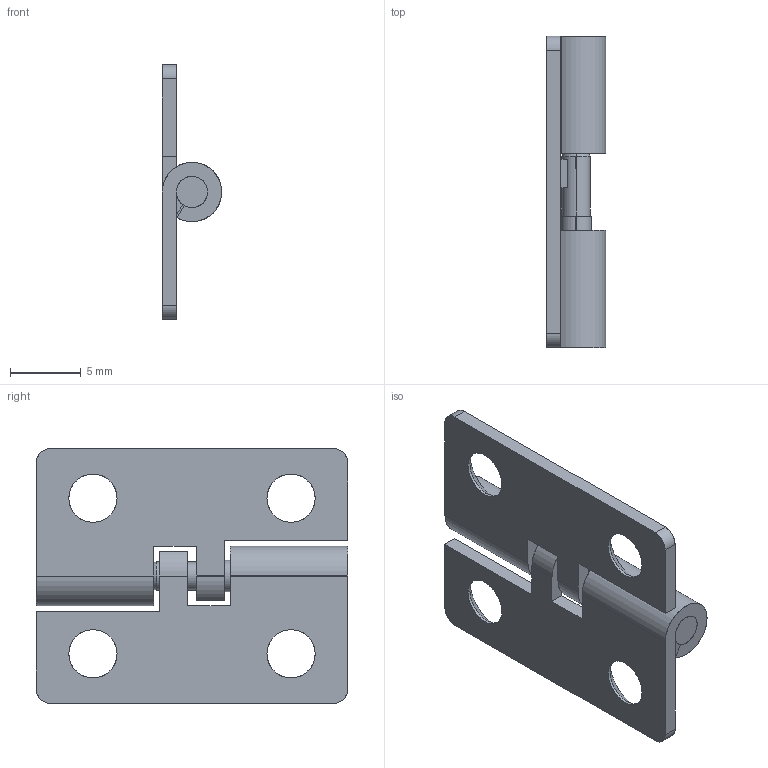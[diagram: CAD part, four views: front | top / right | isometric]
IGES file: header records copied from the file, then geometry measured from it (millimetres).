
Start section: SolidWorks IGES FILE using analytic representation for surfaces
Global section: file name: E:\妙子\仕事\solidworks\ヒンジ0829\DEH-31\DEH-31-1(L)\DEH-31-1(L).IGS; native system: SolidWorks 2003 by SolidWorks Corporation; preprocessor: Version 5.3; author: 妙子,,; organization: 11; date: 130829.143242; units: millimetre
Bounding box: 4.2 x 22 x 18 mm (x, y, z)
Surface area: 1196.3 mm2 (no closed solid volume)
Topology: 0 solids, 0 shells, 61 faces, 912 edges, 912 vertices
Faces by surface type: revolution 34, bspline 27
